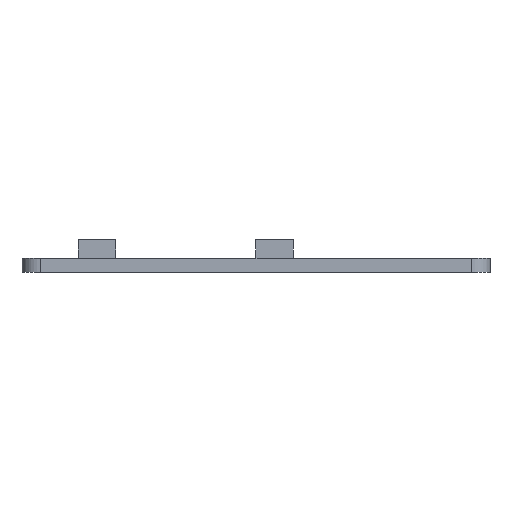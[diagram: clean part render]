
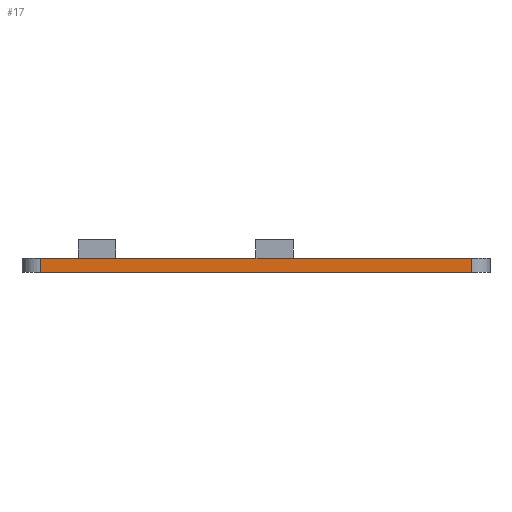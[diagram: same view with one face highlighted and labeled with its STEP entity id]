
A CAD part, left-side view. The second image highlights one B-rep face of the part: STEP entity #17.
In plain terms, the highlighted planar face has unit normal (-1, 0, 0).
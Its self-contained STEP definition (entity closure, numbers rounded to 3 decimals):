
#17 = ADVANCED_FACE('',(#18),#32,.F.);
#18 = FACE_BOUND('',#19,.F.);
#19 = EDGE_LOOP('',(#20,#55,#83,#111));
#20 = ORIENTED_EDGE('',*,*,#21,.F.);
#21 = EDGE_CURVE('',#22,#24,#26,.T.);
#22 = VERTEX_POINT('',#23);
#23 = CARTESIAN_POINT('',(-75.,4.,3.));
#24 = VERTEX_POINT('',#25);
#25 = CARTESIAN_POINT('',(-75.,96.,3.));
#26 = SURFACE_CURVE('',#27,(#31,#43),.PCURVE_S1.);
#27 = LINE('',#28,#29);
#28 = CARTESIAN_POINT('',(-75.,0.,3.));
#29 = VECTOR('',#30,1.);
#30 = DIRECTION('',(0.,1.,0.));
#31 = PCURVE('',#32,#37);
#32 = PLANE('',#33);
#33 = AXIS2_PLACEMENT_3D('',#34,#35,#36);
#34 = CARTESIAN_POINT('',(-75.,0.,0.));
#35 = DIRECTION('',(1.,0.,0.));
#36 = DIRECTION('',(0.,0.,1.));
#37 = DEFINITIONAL_REPRESENTATION('',(#38),#42);
#38 = LINE('',#39,#40);
#39 = CARTESIAN_POINT('',(3.,0.));
#40 = VECTOR('',#41,1.);
#41 = DIRECTION('',(0.,-1.));
#42 = ( GEOMETRIC_REPRESENTATION_CONTEXT(2) 
PARAMETRIC_REPRESENTATION_CONTEXT() REPRESENTATION_CONTEXT('2D SPACE',''
  ) );
#43 = PCURVE('',#44,#49);
#44 = PLANE('',#45);
#45 = AXIS2_PLACEMENT_3D('',#46,#47,#48);
#46 = CARTESIAN_POINT('',(-75.,0.,3.));
#47 = DIRECTION('',(0.,0.,1.));
#48 = DIRECTION('',(1.,0.,0.));
#49 = DEFINITIONAL_REPRESENTATION('',(#50),#54);
#50 = LINE('',#51,#52);
#51 = CARTESIAN_POINT('',(0.,0.));
#52 = VECTOR('',#53,1.);
#53 = DIRECTION('',(0.,1.));
#54 = ( GEOMETRIC_REPRESENTATION_CONTEXT(2) 
PARAMETRIC_REPRESENTATION_CONTEXT() REPRESENTATION_CONTEXT('2D SPACE',''
  ) );
#55 = ORIENTED_EDGE('',*,*,#56,.F.);
#56 = EDGE_CURVE('',#57,#22,#59,.T.);
#57 = VERTEX_POINT('',#58);
#58 = CARTESIAN_POINT('',(-75.,4.,0.));
#59 = SURFACE_CURVE('',#60,(#64,#71),.PCURVE_S1.);
#60 = LINE('',#61,#62);
#61 = CARTESIAN_POINT('',(-75.,4.,0.));
#62 = VECTOR('',#63,1.);
#63 = DIRECTION('',(0.,0.,1.));
#64 = PCURVE('',#32,#65);
#65 = DEFINITIONAL_REPRESENTATION('',(#66),#70);
#66 = LINE('',#67,#68);
#67 = CARTESIAN_POINT('',(0.,-4.));
#68 = VECTOR('',#69,1.);
#69 = DIRECTION('',(1.,0.));
#70 = ( GEOMETRIC_REPRESENTATION_CONTEXT(2) 
PARAMETRIC_REPRESENTATION_CONTEXT() REPRESENTATION_CONTEXT('2D SPACE',''
  ) );
#71 = PCURVE('',#72,#77);
#72 = CYLINDRICAL_SURFACE('',#73,4.);
#73 = AXIS2_PLACEMENT_3D('',#74,#75,#76);
#74 = CARTESIAN_POINT('',(-71.,4.,0.));
#75 = DIRECTION('',(0.,0.,1.));
#76 = DIRECTION('',(-1.,-0.,0.));
#77 = DEFINITIONAL_REPRESENTATION('',(#78),#82);
#78 = LINE('',#79,#80);
#79 = CARTESIAN_POINT('',(0.,0.));
#80 = VECTOR('',#81,1.);
#81 = DIRECTION('',(0.,1.));
#82 = ( GEOMETRIC_REPRESENTATION_CONTEXT(2) 
PARAMETRIC_REPRESENTATION_CONTEXT() REPRESENTATION_CONTEXT('2D SPACE',''
  ) );
#83 = ORIENTED_EDGE('',*,*,#84,.T.);
#84 = EDGE_CURVE('',#57,#85,#87,.T.);
#85 = VERTEX_POINT('',#86);
#86 = CARTESIAN_POINT('',(-75.,96.,0.));
#87 = SURFACE_CURVE('',#88,(#92,#99),.PCURVE_S1.);
#88 = LINE('',#89,#90);
#89 = CARTESIAN_POINT('',(-75.,0.,0.));
#90 = VECTOR('',#91,1.);
#91 = DIRECTION('',(0.,1.,0.));
#92 = PCURVE('',#32,#93);
#93 = DEFINITIONAL_REPRESENTATION('',(#94),#98);
#94 = LINE('',#95,#96);
#95 = CARTESIAN_POINT('',(0.,0.));
#96 = VECTOR('',#97,1.);
#97 = DIRECTION('',(0.,-1.));
#98 = ( GEOMETRIC_REPRESENTATION_CONTEXT(2) 
PARAMETRIC_REPRESENTATION_CONTEXT() REPRESENTATION_CONTEXT('2D SPACE',''
  ) );
#99 = PCURVE('',#100,#105);
#100 = PLANE('',#101);
#101 = AXIS2_PLACEMENT_3D('',#102,#103,#104);
#102 = CARTESIAN_POINT('',(-75.,0.,0.));
#103 = DIRECTION('',(0.,0.,1.));
#104 = DIRECTION('',(1.,0.,0.));
#105 = DEFINITIONAL_REPRESENTATION('',(#106),#110);
#106 = LINE('',#107,#108);
#107 = CARTESIAN_POINT('',(0.,0.));
#108 = VECTOR('',#109,1.);
#109 = DIRECTION('',(0.,1.));
#110 = ( GEOMETRIC_REPRESENTATION_CONTEXT(2) 
PARAMETRIC_REPRESENTATION_CONTEXT() REPRESENTATION_CONTEXT('2D SPACE',''
  ) );
#111 = ORIENTED_EDGE('',*,*,#112,.T.);
#112 = EDGE_CURVE('',#85,#24,#113,.T.);
#113 = SURFACE_CURVE('',#114,(#118,#125),.PCURVE_S1.);
#114 = LINE('',#115,#116);
#115 = CARTESIAN_POINT('',(-75.,96.,0.));
#116 = VECTOR('',#117,1.);
#117 = DIRECTION('',(0.,0.,1.));
#118 = PCURVE('',#32,#119);
#119 = DEFINITIONAL_REPRESENTATION('',(#120),#124);
#120 = LINE('',#121,#122);
#121 = CARTESIAN_POINT('',(0.,-96.));
#122 = VECTOR('',#123,1.);
#123 = DIRECTION('',(1.,0.));
#124 = ( GEOMETRIC_REPRESENTATION_CONTEXT(2) 
PARAMETRIC_REPRESENTATION_CONTEXT() REPRESENTATION_CONTEXT('2D SPACE',''
  ) );
#125 = PCURVE('',#126,#131);
#126 = CYLINDRICAL_SURFACE('',#127,4.);
#127 = AXIS2_PLACEMENT_3D('',#128,#129,#130);
#128 = CARTESIAN_POINT('',(-71.,96.,0.));
#129 = DIRECTION('',(0.,0.,1.));
#130 = DIRECTION('',(-1.,-0.,0.));
#131 = DEFINITIONAL_REPRESENTATION('',(#132),#136);
#132 = LINE('',#133,#134);
#133 = CARTESIAN_POINT('',(-0.,0.));
#134 = VECTOR('',#135,1.);
#135 = DIRECTION('',(-0.,1.));
#136 = ( GEOMETRIC_REPRESENTATION_CONTEXT(2) 
PARAMETRIC_REPRESENTATION_CONTEXT() REPRESENTATION_CONTEXT('2D SPACE',''
  ) );
